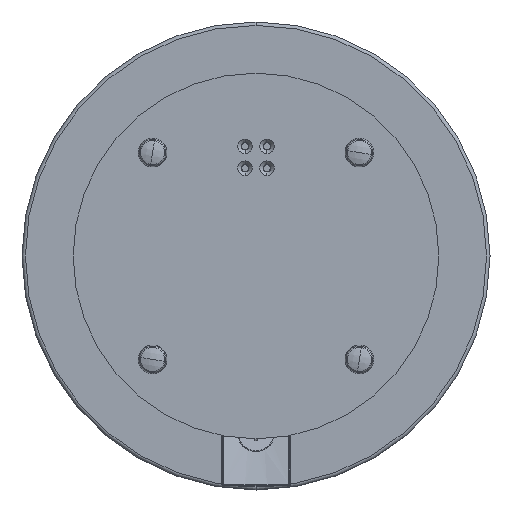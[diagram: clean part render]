
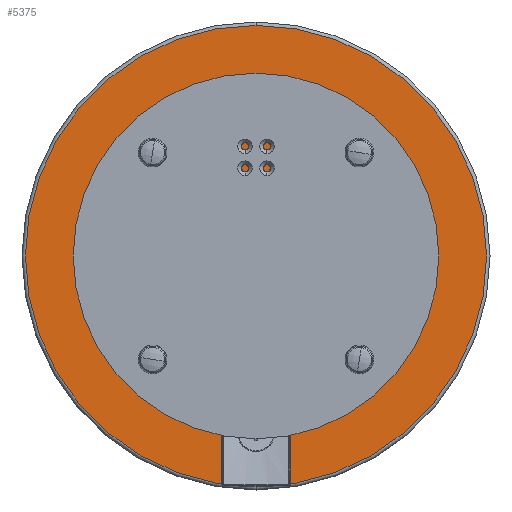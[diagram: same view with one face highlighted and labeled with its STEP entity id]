
A CAD part, front view. The second image highlights one B-rep face of the part: STEP entity #5375.
In plain terms, the highlighted planar face has unit normal (0, -1, 0).
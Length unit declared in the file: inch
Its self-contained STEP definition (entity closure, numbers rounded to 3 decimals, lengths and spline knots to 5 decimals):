
#437 = CARTESIAN_POINT ( 'NONE',  ( 0., 0., 0. ) ) ;
#1158 = CARTESIAN_POINT ( 'NONE',  ( 0., 0., 0. ) ) ;
#1413 = PLANE ( 'NONE',  #6183 ) ;
#1511 = DIRECTION ( 'NONE',  ( 0., 1., 0. ) ) ;
#1856 = ORIENTED_EDGE ( 'NONE', *, *, #2568, .F. ) ;
#2201 = CARTESIAN_POINT ( 'NONE',  ( 0., 0., 7.88189 ) ) ;
#2568 = EDGE_CURVE ( 'NONE', #3914, #9558, #11772, .T. ) ;
#3075 = EDGE_LOOP ( 'NONE', ( #8810, #1856 ) ) ;
#3190 = DIRECTION ( 'NONE',  ( 0., 0., 1. ) ) ;
#3914 = VERTEX_POINT ( 'NONE', #7762 ) ;
#5047 = DIRECTION ( 'NONE',  ( 0., 1., 0. ) ) ;
#5172 = DIRECTION ( 'NONE',  ( 0., 0., 1. ) ) ;
#5375 = ADVANCED_FACE ( 'NONE', ( #9970 ), #1413, .F. ) ;
#6183 = AXIS2_PLACEMENT_3D ( 'NONE', #1158, #5047, #5172 ) ;
#7135 = AXIS2_PLACEMENT_3D ( 'NONE', #437, #1511, #11981 ) ;
#7194 = CARTESIAN_POINT ( 'NONE',  ( 0., 0., 0. ) ) ;
#7675 = CIRCLE ( 'NONE', #8092, 7.88189 ) ;
#7762 = CARTESIAN_POINT ( 'NONE',  ( 0., 0., -7.88189 ) ) ;
#8092 = AXIS2_PLACEMENT_3D ( 'NONE', #7194, #8201, #3190 ) ;
#8201 = DIRECTION ( 'NONE',  ( 0., 1., 0. ) ) ;
#8810 = ORIENTED_EDGE ( 'NONE', *, *, #11204, .F. ) ;
#9558 = VERTEX_POINT ( 'NONE', #2201 ) ;
#9970 = FACE_OUTER_BOUND ( 'NONE', #3075, .T. ) ;
#11204 = EDGE_CURVE ( 'NONE', #9558, #3914, #7675, .T. ) ;
#11772 = CIRCLE ( 'NONE', #7135, 7.88189 ) ;
#11981 = DIRECTION ( 'NONE',  ( 0., 0., 1. ) ) ;
